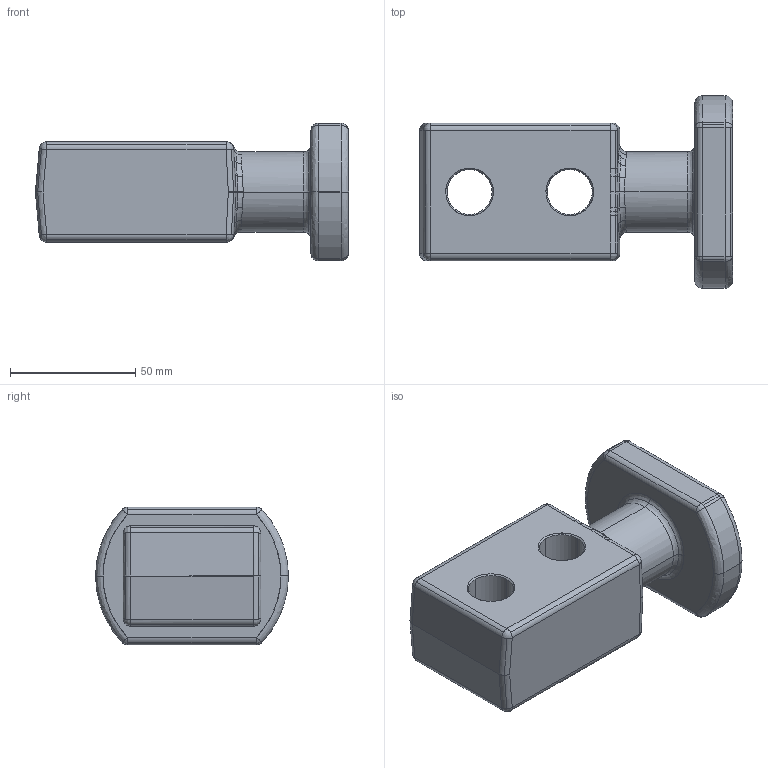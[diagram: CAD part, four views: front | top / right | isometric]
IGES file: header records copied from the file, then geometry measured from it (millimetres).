
Global section: file name: E:\UnigraphicsGraphicData\MISUMI_PRESS-PARTS\IGES\3d_chpl32_03569_r00.igs; native system: NX V5.0; preprocessor: UGS NX IGES V5.0; author: MISUMI; date: 20110105.160236; units: millimetre
Bounding box: 125 x 77 x 55 mm (x, y, z)
Surface area: 33522.7 mm2 (no closed solid volume)
Topology: 0 solids, 0 shells, 194 faces, 957 edges, 939 vertices
Faces by surface type: bspline 194
